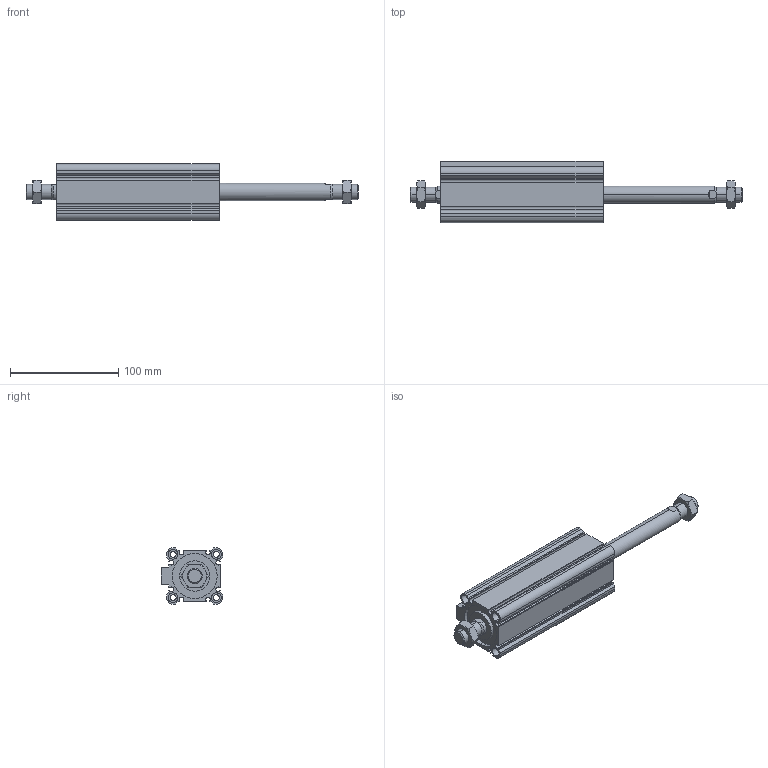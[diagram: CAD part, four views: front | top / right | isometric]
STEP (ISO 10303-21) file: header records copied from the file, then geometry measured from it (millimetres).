
FILE_DESCRIPTION (( 'STEP AP203' ), '1' );
FILE_NAME ('CCMB40-100M-P.STEP', '2020-08-10T11:41:13', ( '' ), ( '' ), 'SwSTEP 2.0', 'SolidWorks 2019', '' );
FILE_SCHEMA (( 'CONFIG_CONTROL_DESIGN' ));
Length unit declared in the file: millimetre
Products named in the file (1): CCMB40-100M-P
Bounding box: 307 x 57 x 52 mm (x, y, z)
Volume: 262982.5 mm3; surface area: 101627.2 mm2
Topology: 4 solids, 4 shells, 216 faces, 522 edges, 332 vertices
Faces by surface type: plane 94, cylinder 78, cone 44
Entity records: 7009 total; most frequent: CARTESIAN_POINT 1819, DIRECTION 1088, ORIENTED_EDGE 1044, EDGE_CURVE 522, AXIS2_PLACEMENT_3D 413, VERTEX_POINT 332, VECTOR 262, LINE 262
